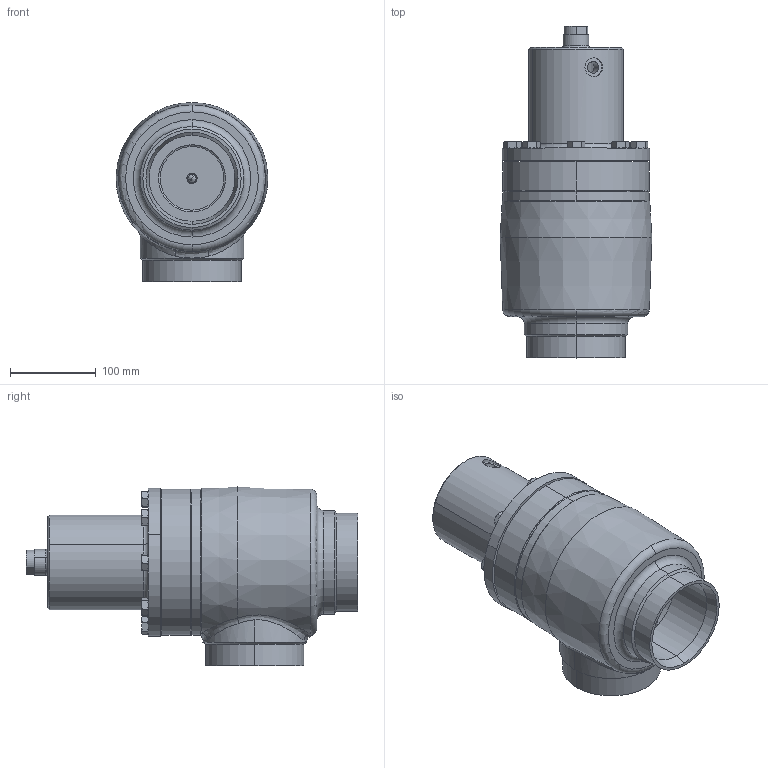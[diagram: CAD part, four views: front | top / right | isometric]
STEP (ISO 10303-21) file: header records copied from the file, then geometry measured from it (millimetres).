
FILE_DESCRIPTION (( 'STEP AP214' ), '1' );
FILE_NAME ('RVD4280xC19-DN100_5-6bar.STEP', '2007-01-10T14:55:57', ( 'Herr Grams' ), ( 'AWP GmbH' ), 'SwSTEP 2.0', 'SolidWorks 2002296', '' );
FILE_SCHEMA (( 'AUTOMOTIVE_DESIGN' ));
Length unit declared in the file: millimetre
Products named in the file (9): RVD4280xC19-DN100_5-6bar; RVD42705E19_Deck+Schr-DN100_5-6bar_Standard; Sechskantschraube-DIN933_M12x 30; Deckel42705E19-DN100_5-6bar_PS40_Standard; Verschlußschr4270xE19-DN100_1-6bar_M12x101_6bar; Gehäuse-kpl16400-DN100_R1_Standard; bead-DN100-1_Standard; Gehäuse16400-DN100_Standard; Kopfstück16300-DN100_Standard
Assembly tree (15 placements, depth 3):
  RVD4280xC19-DN100_5-6bar
    Verschlußschr4270xE19-DN100_1-6bar_M12x101_6bar
    Gehäuse-kpl16400-DN100_R1_Standard
      Gehäuse16400-DN100_Standard
      Kopfstück16300-DN100_Standard
      bead-DN100-1_Standard
    RVD42705E19_Deck+Schr-DN100_5-6bar_Standard
      Sechskantschraube-DIN933_M12x 30  x8
      Deckel42705E19-DN100_5-6bar_PS40_Standard
Bounding box: 176.38 x 386 x 208.23 mm (x, y, z)
Volume: 2882478.9 mm3; surface area: 513226.2 mm2
Topology: 13 solids, 13 shells, 337 faces, 724 edges, 432 vertices
Faces by surface type: cone 134, plane 98, cylinder 85, bspline 10, torus 10
Entity records: 16864 total; most frequent: CARTESIAN_POINT 12639, DIRECTION 827, ORIENTED_EDGE 716, AXIS2_PLACEMENT_3D 362, EDGE_CURVE 358, VERTEX_POINT 222, EDGE_LOOP 204, CIRCLE 190
